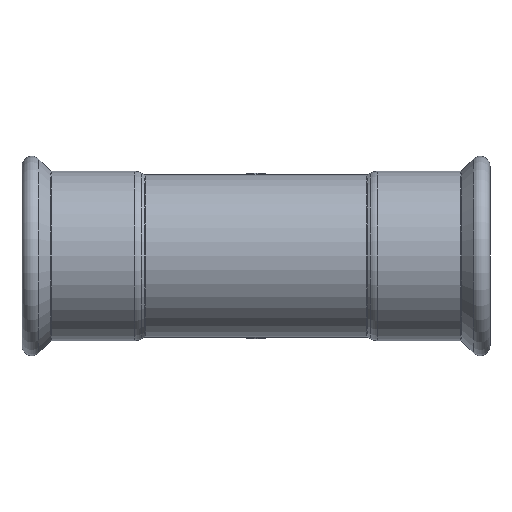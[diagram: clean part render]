
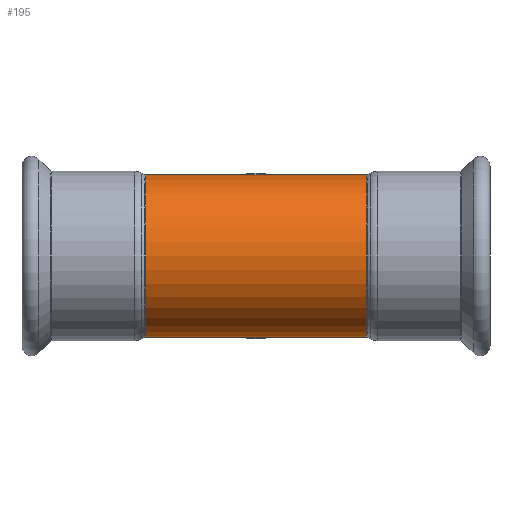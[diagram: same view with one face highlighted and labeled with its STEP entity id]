
A CAD part, front view. The second image highlights one B-rep face of the part: STEP entity #195.
In plain terms, the highlighted cylindrical face has radius 53.5 mm (diameter 107 mm), a partial arc.
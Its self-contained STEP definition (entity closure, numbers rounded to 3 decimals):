
#40 = DIRECTION ( 'NONE',  ( 0., 0., 1. ) ) ;
#195 = ADVANCED_FACE ( 'NONE', ( #1975 ), #552, .T. ) ;
#516 = ORIENTED_EDGE ( 'NONE', *, *, #4450, .F. ) ;
#552 = CYLINDRICAL_SURFACE ( 'NONE', #3602, 53.5 ) ;
#581 = CARTESIAN_POINT ( 'NONE',  ( -72.868, 0., -53.5 ) ) ;
#879 = VERTEX_POINT ( 'NONE', #581 ) ;
#1020 = EDGE_CURVE ( 'NONE', #2916, #879, #4254, .T. ) ;
#1135 = EDGE_LOOP ( 'NONE', ( #4039, #2378, #2285, #516 ) ) ;
#1138 = DIRECTION ( 'NONE',  ( -1., 0., 0. ) ) ;
#1155 = CIRCLE ( 'NONE', #4621, 53.5 ) ;
#1211 = DIRECTION ( 'NONE',  ( 0., 0., 1. ) ) ;
#1337 = VECTOR ( 'NONE', #3318, 1000. ) ;
#1692 = VERTEX_POINT ( 'NONE', #3115 ) ;
#1975 = FACE_OUTER_BOUND ( 'NONE', #1135, .T. ) ;
#2026 = EDGE_CURVE ( 'NONE', #2916, #2101, #1155, .T. ) ;
#2101 = VERTEX_POINT ( 'NONE', #4047 ) ;
#2285 = ORIENTED_EDGE ( 'NONE', *, *, #4200, .T. ) ;
#2378 = ORIENTED_EDGE ( 'NONE', *, *, #2026, .T. ) ;
#2406 = DIRECTION ( 'NONE',  ( -1., 0., 0. ) ) ;
#2843 = CARTESIAN_POINT ( 'NONE',  ( 27.146, 0., 53.5 ) ) ;
#2916 = VERTEX_POINT ( 'NONE', #3945 ) ;
#3024 = CARTESIAN_POINT ( 'NONE',  ( 27.146, 0., 0. ) ) ;
#3115 = CARTESIAN_POINT ( 'NONE',  ( -72.868, 0., 53.5 ) ) ;
#3160 = CARTESIAN_POINT ( 'NONE',  ( 72.868, 0., 0. ) ) ;
#3318 = DIRECTION ( 'NONE',  ( -1., 0., 0. ) ) ;
#3351 = CARTESIAN_POINT ( 'NONE',  ( -72.868, 0., 0. ) ) ;
#3585 = DIRECTION ( 'NONE',  ( -1., 0., 0. ) ) ;
#3602 = AXIS2_PLACEMENT_3D ( 'NONE', #3024, #3766, #1211 ) ;
#3628 = VECTOR ( 'NONE', #3585, 1000. ) ;
#3703 = CARTESIAN_POINT ( 'NONE',  ( 27.146, 0., -53.5 ) ) ;
#3731 = LINE ( 'NONE', #2843, #3628 ) ;
#3766 = DIRECTION ( 'NONE',  ( -1., 0., 0. ) ) ;
#3945 = CARTESIAN_POINT ( 'NONE',  ( 72.868, 0., -53.5 ) ) ;
#4039 = ORIENTED_EDGE ( 'NONE', *, *, #1020, .F. ) ;
#4047 = CARTESIAN_POINT ( 'NONE',  ( 72.868, 0., 53.5 ) ) ;
#4105 = AXIS2_PLACEMENT_3D ( 'NONE', #3351, #1138, #40 ) ;
#4200 = EDGE_CURVE ( 'NONE', #2101, #1692, #3731, .T. ) ;
#4233 = CIRCLE ( 'NONE', #4105, 53.5 ) ;
#4238 = DIRECTION ( 'NONE',  ( 0., 0., 1. ) ) ;
#4254 = LINE ( 'NONE', #3703, #1337 ) ;
#4450 = EDGE_CURVE ( 'NONE', #879, #1692, #4233, .T. ) ;
#4621 = AXIS2_PLACEMENT_3D ( 'NONE', #3160, #2406, #4238 ) ;
